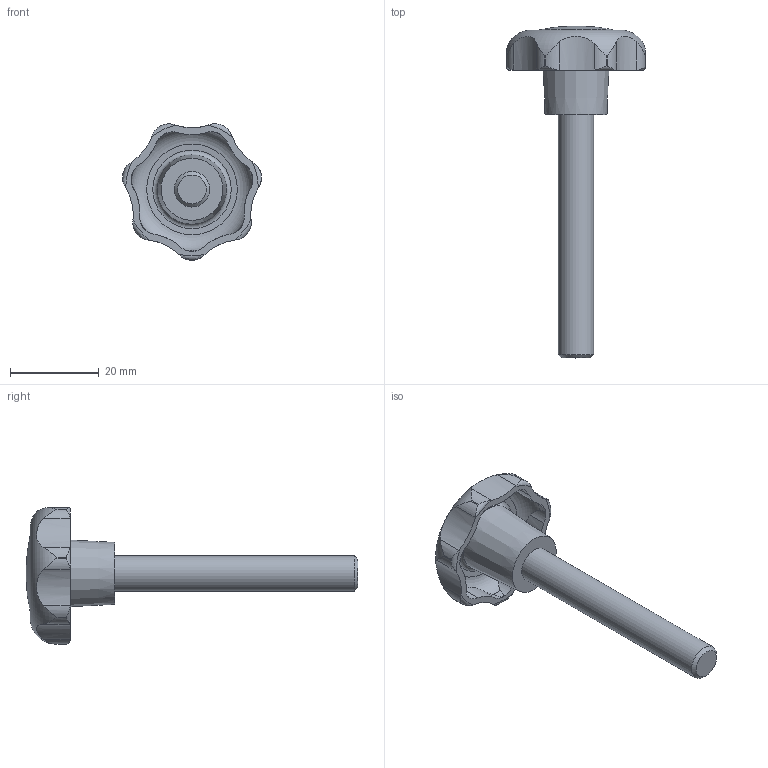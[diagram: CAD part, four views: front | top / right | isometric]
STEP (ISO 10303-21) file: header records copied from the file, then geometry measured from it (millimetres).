
FILE_DESCRIPTION( ( 'STEP AP203' ), '1' );
FILE_NAME( 'C:/Temp/Ganter_Step_05_03_2020/data/2_2/gn_6336_4/gn_6336_4_st/Star knob GN 6336.4-ST-32-M8-55.stp', '2020-03-05T12:07:27', ( 'License CC BY-ND 4.0' ), ( 'CADENAS' ), ' ', 'PARTsolutions', ' ' );
FILE_SCHEMA( ( 'CONFIG_CONTROL_DESIGN' ) );
Length unit declared in the file: millimetre
Products named in the file (1): _Star knob GN 6336.4-ST-32-M8-55
Bounding box: 31.4 x 75 x 30.81 mm (x, y, z)
Volume: 8562.8 mm3; surface area: 4553.6 mm2
Topology: 1 solids, 1 shells, 74 faces, 209 edges, 138 vertices
Faces by surface type: cylinder 50, torus 10, cone 10, plane 3, sphere 1
Full cylindrical faces by diameter (mm): 8 x1
Entity records: 3221 total; most frequent: CARTESIAN_POINT 1406, ORIENTED_EDGE 394, DIRECTION 336, EDGE_CURVE 197, AXIS2_PLACEMENT_3D 147, VERTEX_POINT 136, EDGE_LOOP 83, B_SPLINE_CURVE_WITH_KNOTS 83
